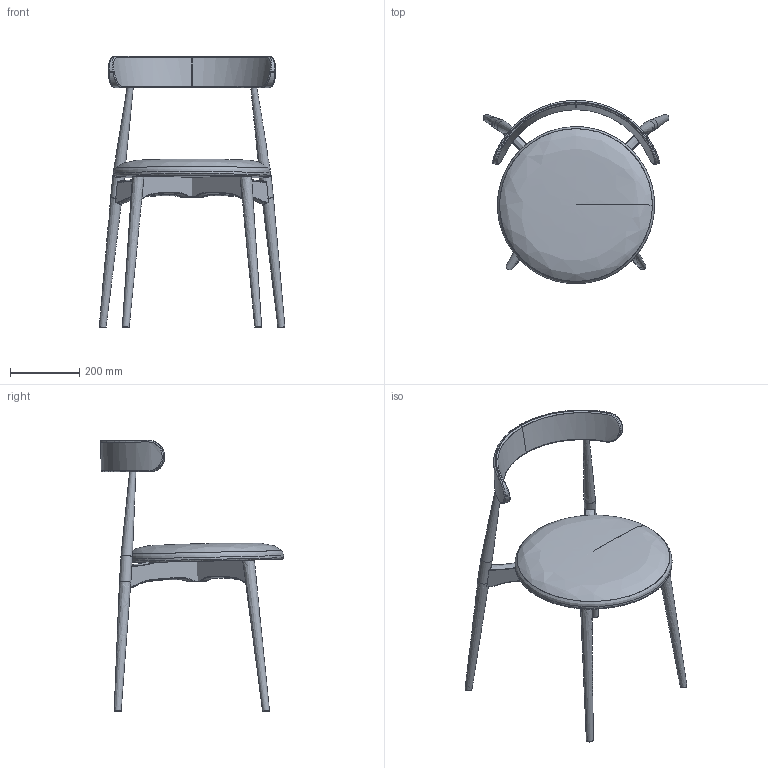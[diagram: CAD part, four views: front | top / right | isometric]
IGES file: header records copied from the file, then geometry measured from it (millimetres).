
Global section: file name: C:\Users\Cristina\Documents\CZ\Collezione FRISBEE\Sedia FRISBEE\Sedia FRISBEE.igs; native system: Rhinoceros ( Sep  9 2018 ); preprocessor: Trout Lake IGES 012 Sep  9 2018; date: 190905.144937; units: millimetre
Bounding box: 537.71 x 530.63 x 785.21 mm (x, y, z)
Surface area: 848665.9 mm2 (no closed solid volume)
Topology: 0 solids, 0 shells, 165 faces, 1814 edges, 1796 vertices
Faces by surface type: bspline 165
